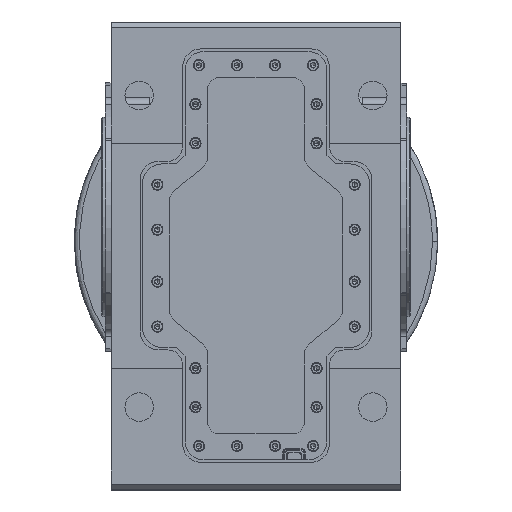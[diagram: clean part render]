
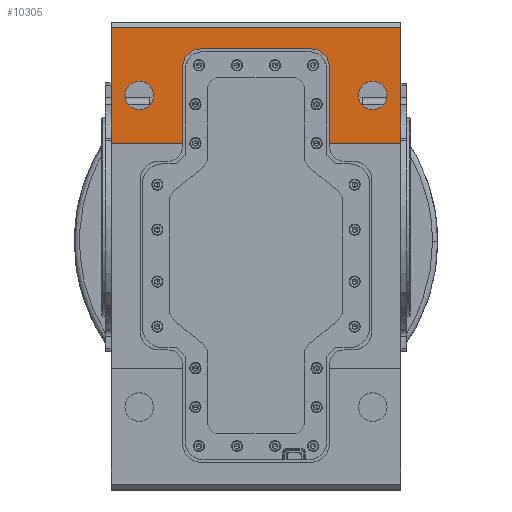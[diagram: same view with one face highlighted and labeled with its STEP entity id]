
A CAD part, top view. The second image highlights one B-rep face of the part: STEP entity #10305.
In plain terms, the highlighted planar face has unit normal (0, 0, 1).
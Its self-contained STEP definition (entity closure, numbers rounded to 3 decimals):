
#1856 = CARTESIAN_POINT ( 'NONE',  ( 167.5, 219., 200. ) ) ;
#2258 = CARTESIAN_POINT ( 'NONE',  ( 167.5, 85., 200. ) ) ;
#2273 = CARTESIAN_POINT ( 'NONE',  ( -167.5, 219., 200. ) ) ;
#4466 = CARTESIAN_POINT ( 'NONE',  ( -135., 123.5, 200. ) ) ;
#4488 = CARTESIAN_POINT ( 'NONE',  ( 135., 123.5, 200. ) ) ;
#4517 = CARTESIAN_POINT ( 'NONE',  ( 135., 156.5, 200. ) ) ;
#4521 = CARTESIAN_POINT ( 'NONE',  ( -135., 156.5, 200. ) ) ;
#10305 = ADVANCED_FACE ( 'NONE', ( #109226, #109283, #109291 ), #92882, .T. ) ;
#11145 = LINE ( 'NONE', #14256, #11340 ) ;
#11340 = VECTOR ( 'NONE', #14250, 1000. ) ;
#11575 = VECTOR ( 'NONE', #15466, 1000. ) ;
#11633 = LINE ( 'NONE', #15453, #11575 ) ;
#11653 = LINE ( 'NONE', #16059, #11786 ) ;
#11786 = VECTOR ( 'NONE', #16106, 1000. ) ;
#11877 = VECTOR ( 'NONE', #16016, 1000. ) ;
#11888 = LINE ( 'NONE', #16006, #11877 ) ;
#14250 = DIRECTION ( 'NONE',  ( -1., 0., 0. ) ) ;
#14256 = CARTESIAN_POINT ( 'NONE',  ( -167.5, 219., 200. ) ) ;
#15453 = CARTESIAN_POINT ( 'NONE',  ( 167.5, 221., 200. ) ) ;
#15466 = DIRECTION ( 'NONE',  ( 0., -1., 0. ) ) ;
#16006 = CARTESIAN_POINT ( 'NONE',  ( 97.5, 85., 200. ) ) ;
#16016 = DIRECTION ( 'NONE',  ( 1., 0., 0. ) ) ;
#16059 = CARTESIAN_POINT ( 'NONE',  ( -167.5, 225., 200. ) ) ;
#16106 = DIRECTION ( 'NONE',  ( 0., -1., 0. ) ) ;
#23170 = ORIENTED_EDGE ( 'NONE', *, *, #111317, .T. ) ;
#23178 = ORIENTED_EDGE ( 'NONE', *, *, #111284, .F. ) ;
#24156 = ORIENTED_EDGE ( 'NONE', *, *, #66381, .T. ) ;
#24157 = ORIENTED_EDGE ( 'NONE', *, *, #65777, .T. ) ;
#24161 = ORIENTED_EDGE ( 'NONE', *, *, #111328, .T. ) ;
#24164 = ORIENTED_EDGE ( 'NONE', *, *, #65829, .T. ) ;
#28609 = LINE ( 'NONE', #34007, #28634 ) ;
#28634 = VECTOR ( 'NONE', #33945, 1000. ) ;
#33945 = DIRECTION ( 'NONE',  ( 1., 0., 0. ) ) ;
#34007 = CARTESIAN_POINT ( 'NONE',  ( -167.5, 85., 200. ) ) ;
#39052 = CARTESIAN_POINT ( 'NONE',  ( -63., 194., 200. ) ) ;
#39080 = CARTESIAN_POINT ( 'NONE',  ( -85., 172., 200. ) ) ;
#39095 = CARTESIAN_POINT ( 'NONE',  ( -85., 85., 200. ) ) ;
#39124 = CARTESIAN_POINT ( 'NONE',  ( 85., 85., 200. ) ) ;
#39157 = CARTESIAN_POINT ( 'NONE',  ( 63., 194., 200. ) ) ;
#39165 = CARTESIAN_POINT ( 'NONE',  ( 85., 172., 200. ) ) ;
#39230 = CARTESIAN_POINT ( 'NONE',  ( -167.5, 85., 200. ) ) ;
#58226 = AXIS2_PLACEMENT_3D ( 'NONE', #92884, #92890, #93004 ) ;
#65634 = EDGE_CURVE ( 'NONE', #116457, #116548, #115756, .T. ) ;
#65777 = EDGE_CURVE ( 'NONE', #116486, #116709, #112191, .T. ) ;
#65779 = EDGE_CURVE ( 'NONE', #116692, #116613, #112240, .T. ) ;
#65804 = EDGE_CURVE ( 'NONE', #116548, #116486, #112327, .T. ) ;
#65829 = EDGE_CURVE ( 'NONE', #106700, #106637, #112343, .T. ) ;
#65855 = EDGE_CURVE ( 'NONE', #106702, #106628, #112382, .T. ) ;
#65915 = EDGE_CURVE ( 'NONE', #116709, #116692, #112770, .T. ) ;
#66300 = EDGE_CURVE ( 'NONE', #106628, #106702, #112662, .T. ) ;
#66381 = EDGE_CURVE ( 'NONE', #106637, #106700, #139461, .T. ) ;
#92882 = PLANE ( 'NONE',  #58226 ) ;
#92884 = CARTESIAN_POINT ( 'NONE',  ( -167.5, 225., 200. ) ) ;
#92890 = DIRECTION ( 'NONE',  ( 0., 0., 1. ) ) ;
#93004 = DIRECTION ( 'NONE',  ( 0., -1., 0. ) ) ;
#96176 = VERTEX_POINT ( 'NONE', #1856 ) ;
#96585 = VERTEX_POINT ( 'NONE', #2258 ) ;
#96604 = VERTEX_POINT ( 'NONE', #2273 ) ;
#106628 = VERTEX_POINT ( 'NONE', #4466 ) ;
#106637 = VERTEX_POINT ( 'NONE', #4488 ) ;
#106700 = VERTEX_POINT ( 'NONE', #4517 ) ;
#106702 = VERTEX_POINT ( 'NONE', #4521 ) ;
#106812 = AXIS2_PLACEMENT_3D ( 'NONE', #133663, #133654, #133741 ) ;
#106837 = AXIS2_PLACEMENT_3D ( 'NONE', #133313, #133318, #133346 ) ;
#106886 = AXIS2_PLACEMENT_3D ( 'NONE', #133579, #133576, #133506 ) ;
#106887 = AXIS2_PLACEMENT_3D ( 'NONE', #131555, #131562, #131557 ) ;
#106918 = AXIS2_PLACEMENT_3D ( 'NONE', #138532, #138588, #138632 ) ;
#106987 = AXIS2_PLACEMENT_3D ( 'NONE', #138758, #138762, #138764 ) ;
#109226 = FACE_BOUND ( 'NONE', #129873, .T. ) ;
#109283 = FACE_BOUND ( 'NONE', #129874, .T. ) ;
#109291 = FACE_OUTER_BOUND ( 'NONE', #129886, .T. ) ;
#111240 = EDGE_CURVE ( 'NONE', #96176, #96604, #11145, .T. ) ;
#111284 = EDGE_CURVE ( 'NONE', #96176, #96585, #11633, .T. ) ;
#111317 = EDGE_CURVE ( 'NONE', #116613, #96585, #11888, .T. ) ;
#111328 = EDGE_CURVE ( 'NONE', #96604, #116861, #11653, .T. ) ;
#112191 = LINE ( 'NONE', #133135, #112206 ) ;
#112206 = VECTOR ( 'NONE', #133049, 1000. ) ;
#112240 = LINE ( 'NONE', #133098, #112269 ) ;
#112269 = VECTOR ( 'NONE', #133137, 1000. ) ;
#112327 = CIRCLE ( 'NONE', #106837, 22. ) ;
#112343 = CIRCLE ( 'NONE', #106886, 16.5 ) ;
#112382 = CIRCLE ( 'NONE', #106812, 16.5 ) ;
#112662 = CIRCLE ( 'NONE', #106918, 16.5 ) ;
#112770 = CIRCLE ( 'NONE', #106887, 22. ) ;
#113609 = EDGE_CURVE ( 'NONE', #116861, #116457, #28609, .T. ) ;
#115668 = VECTOR ( 'NONE', #120758, 1000. ) ;
#115756 = LINE ( 'NONE', #120762, #115668 ) ;
#116457 = VERTEX_POINT ( 'NONE', #39095 ) ;
#116486 = VERTEX_POINT ( 'NONE', #39052 ) ;
#116548 = VERTEX_POINT ( 'NONE', #39080 ) ;
#116613 = VERTEX_POINT ( 'NONE', #39124 ) ;
#116692 = VERTEX_POINT ( 'NONE', #39165 ) ;
#116709 = VERTEX_POINT ( 'NONE', #39157 ) ;
#116861 = VERTEX_POINT ( 'NONE', #39230 ) ;
#120758 = DIRECTION ( 'NONE',  ( 0., 1., 0. ) ) ;
#120762 = CARTESIAN_POINT ( 'NONE',  ( -85., 225., 200. ) ) ;
#126657 = ORIENTED_EDGE ( 'NONE', *, *, #65779, .T. ) ;
#126664 = ORIENTED_EDGE ( 'NONE', *, *, #65804, .T. ) ;
#126685 = ORIENTED_EDGE ( 'NONE', *, *, #66300, .T. ) ;
#126687 = ORIENTED_EDGE ( 'NONE', *, *, #65855, .T. ) ;
#126706 = ORIENTED_EDGE ( 'NONE', *, *, #65915, .T. ) ;
#126711 = ORIENTED_EDGE ( 'NONE', *, *, #113609, .T. ) ;
#126764 = ORIENTED_EDGE ( 'NONE', *, *, #111240, .T. ) ;
#126767 = ORIENTED_EDGE ( 'NONE', *, *, #65634, .T. ) ;
#129873 = EDGE_LOOP ( 'NONE', ( #24156, #24164 ) ) ;
#129874 = EDGE_LOOP ( 'NONE', ( #126685, #126687 ) ) ;
#129886 = EDGE_LOOP ( 'NONE', ( #23178, #126764, #24161, #126711, #126767, #126664, #24157, #126706, #126657, #23170 ) ) ;
#131555 = CARTESIAN_POINT ( 'NONE',  ( 63., 172., 200. ) ) ;
#131557 = DIRECTION ( 'NONE',  ( 0., -1., 0. ) ) ;
#131562 = DIRECTION ( 'NONE',  ( 0., 0., -1. ) ) ;
#133049 = DIRECTION ( 'NONE',  ( 1., 0., 0. ) ) ;
#133098 = CARTESIAN_POINT ( 'NONE',  ( 85., 225., 200. ) ) ;
#133135 = CARTESIAN_POINT ( 'NONE',  ( -167.5, 194., 200. ) ) ;
#133137 = DIRECTION ( 'NONE',  ( 0., -1., 0. ) ) ;
#133313 = CARTESIAN_POINT ( 'NONE',  ( -63., 172., 200. ) ) ;
#133318 = DIRECTION ( 'NONE',  ( 0., 0., -1. ) ) ;
#133346 = DIRECTION ( 'NONE',  ( 0., -1., 0. ) ) ;
#133506 = DIRECTION ( 'NONE',  ( 0., -1., 0. ) ) ;
#133576 = DIRECTION ( 'NONE',  ( 0., 0., -1. ) ) ;
#133579 = CARTESIAN_POINT ( 'NONE',  ( 135., 140., 200. ) ) ;
#133654 = DIRECTION ( 'NONE',  ( 0., 0., -1. ) ) ;
#133663 = CARTESIAN_POINT ( 'NONE',  ( -135., 140., 200. ) ) ;
#133741 = DIRECTION ( 'NONE',  ( 0., -1., 0. ) ) ;
#138532 = CARTESIAN_POINT ( 'NONE',  ( -135., 140., 200. ) ) ;
#138588 = DIRECTION ( 'NONE',  ( 0., 0., -1. ) ) ;
#138632 = DIRECTION ( 'NONE',  ( 0., -1., 0. ) ) ;
#138758 = CARTESIAN_POINT ( 'NONE',  ( 135., 140., 200. ) ) ;
#138762 = DIRECTION ( 'NONE',  ( 0., 0., -1. ) ) ;
#138764 = DIRECTION ( 'NONE',  ( 0., -1., 0. ) ) ;
#139461 = CIRCLE ( 'NONE', #106987, 16.5 ) ;
